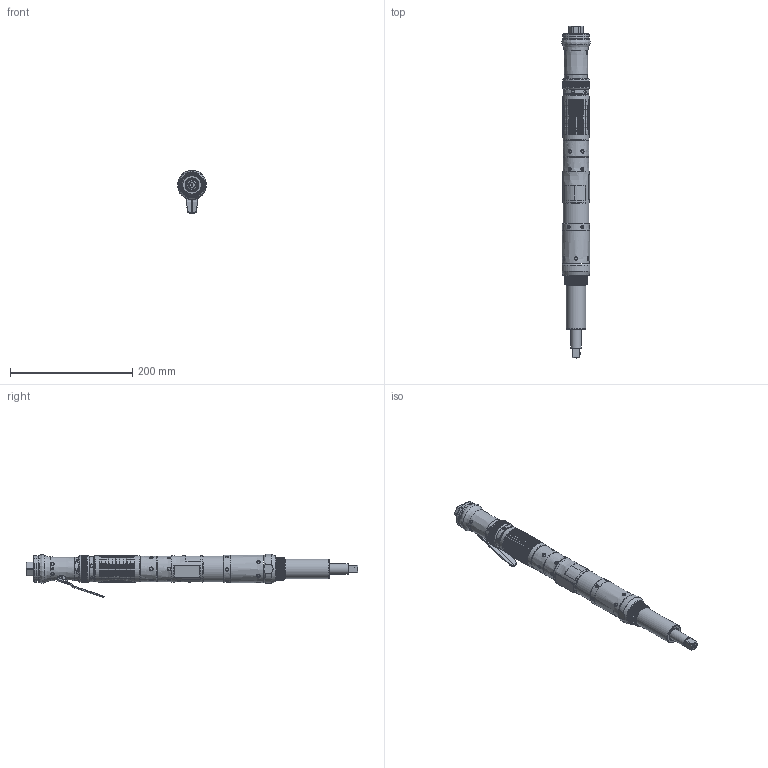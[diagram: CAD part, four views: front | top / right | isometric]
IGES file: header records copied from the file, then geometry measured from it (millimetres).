
Global section: file name: T:\siji\QA6 & QA8 MODEL\QA8 STRAIGHT SHUTOFF\16595175\16595175.igs; native system: Unigraphics Version X V2.0; preprocessor: Unigraphics NX IGES V2.0; date: 20070516.140340; units: inch
Bounding box: 46.21 x 542.09 x 70.71 mm (x, y, z)
Surface area: 94155.3 mm2 (no closed solid volume)
Topology: 0 solids, 0 shells, 995 faces, 13168 edges, 12967 vertices
Faces by surface type: revolution 559, extrusion 409, bspline 25, offset 2
